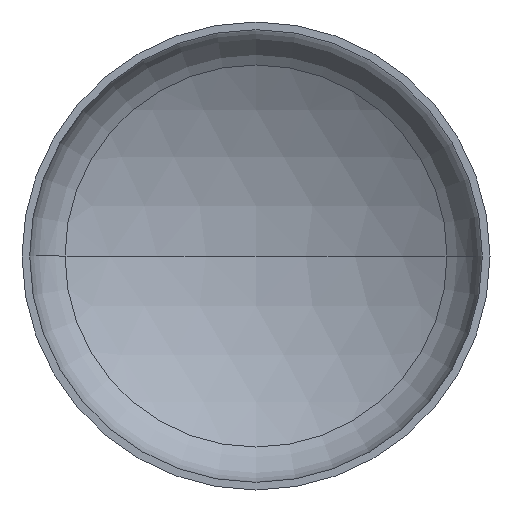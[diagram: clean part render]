
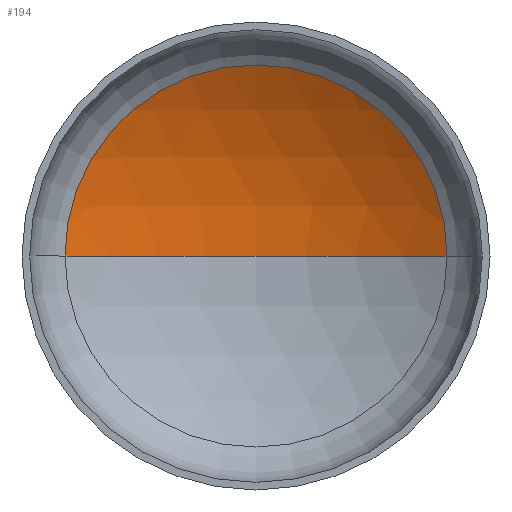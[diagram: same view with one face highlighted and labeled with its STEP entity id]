
A CAD part, front view. The second image highlights one B-rep face of the part: STEP entity #194.
In plain terms, the highlighted spherical face has radius 4000 mm.
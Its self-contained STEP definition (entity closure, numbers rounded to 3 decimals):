
#5 = DIRECTION ( 'NONE',  ( 0., 0., -1. ) ) ;
#14 = AXIS2_PLACEMENT_3D ( 'NONE', #278, #328, #48 ) ;
#16 = CARTESIAN_POINT ( 'NONE',  ( -2040.867, 762.235, 0. ) ) ;
#18 = EDGE_LOOP ( 'NONE', ( #119, #118, #59 ) ) ;
#40 = VERTEX_POINT ( 'NONE', #256 ) ;
#42 = AXIS2_PLACEMENT_3D ( 'NONE', #257, #5, #238 ) ;
#48 = DIRECTION ( 'NONE',  ( 1., 0., 0. ) ) ;
#52 = AXIS2_PLACEMENT_3D ( 'NONE', #263, #280, #124 ) ;
#54 = AXIS2_PLACEMENT_3D ( 'NONE', #274, #273, #242 ) ;
#59 = ORIENTED_EDGE ( 'NONE', *, *, #145, .T. ) ;
#91 = FACE_OUTER_BOUND ( 'NONE', #18, .T. ) ;
#118 = ORIENTED_EDGE ( 'NONE', *, *, #172, .T. ) ;
#119 = ORIENTED_EDGE ( 'NONE', *, *, #346, .F. ) ;
#121 = VERTEX_POINT ( 'NONE', #166 ) ;
#123 = VERTEX_POINT ( 'NONE', #16 ) ;
#124 = DIRECTION ( 'NONE',  ( 1., 0., 0. ) ) ;
#145 = EDGE_CURVE ( 'NONE', #40, #123, #209, .T. ) ;
#166 = CARTESIAN_POINT ( 'NONE',  ( 0., 1322.052, 0. ) ) ;
#172 = EDGE_CURVE ( 'NONE', #121, #40, #318, .T. ) ;
#194 = ADVANCED_FACE ( 'NONE', ( #91 ), #200, .F. ) ;
#200 = SPHERICAL_SURFACE ( 'NONE', #42, 4000. ) ;
#209 = CIRCLE ( 'NONE', #52, 2040.867 ) ;
#238 = DIRECTION ( 'NONE',  ( -1., 0., 0. ) ) ;
#242 = DIRECTION ( 'NONE',  ( -1., 0., 0. ) ) ;
#256 = CARTESIAN_POINT ( 'NONE',  ( 2040.867, 762.235, 0. ) ) ;
#257 = CARTESIAN_POINT ( 'NONE',  ( 0., -2677.948, 0. ) ) ;
#263 = CARTESIAN_POINT ( 'NONE',  ( 0., 762.235, 0. ) ) ;
#273 = DIRECTION ( 'NONE',  ( 0., 0., -1. ) ) ;
#274 = CARTESIAN_POINT ( 'NONE',  ( 0., -2677.948, 0. ) ) ;
#278 = CARTESIAN_POINT ( 'NONE',  ( 0., -2677.948, 0. ) ) ;
#280 = DIRECTION ( 'NONE',  ( 0., -1., 0. ) ) ;
#295 = CIRCLE ( 'NONE', #14, 4000. ) ;
#318 = CIRCLE ( 'NONE', #54, 4000. ) ;
#328 = DIRECTION ( 'NONE',  ( 0., 0., 1. ) ) ;
#346 = EDGE_CURVE ( 'NONE', #121, #123, #295, .T. ) ;
